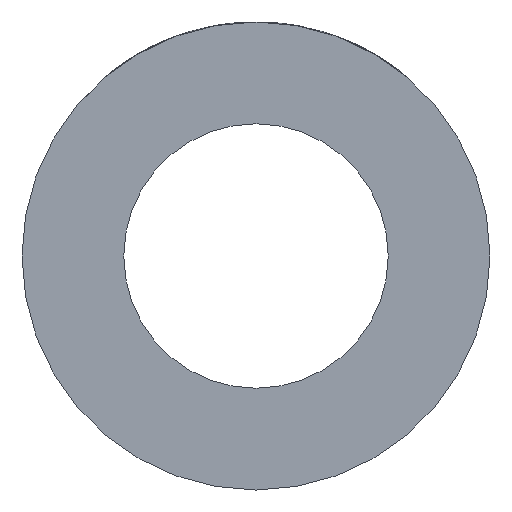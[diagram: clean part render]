
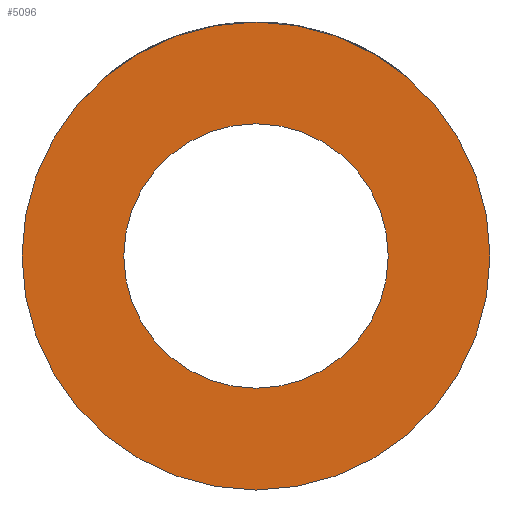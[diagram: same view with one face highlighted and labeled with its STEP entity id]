
A CAD part, left-side view. The second image highlights one B-rep face of the part: STEP entity #5096.
In plain terms, the highlighted planar face has unit normal (-1, 0, 0).
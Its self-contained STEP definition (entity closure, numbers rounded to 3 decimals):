
#117=PLANE('',#5491);
#1569=ORIENTED_EDGE('',*,*,#3111,.T.);
#1570=ORIENTED_EDGE('',*,*,#3110,.F.);
#3110=EDGE_CURVE('',#3881,#3881,#4228,.T.);
#3111=EDGE_CURVE('',#3882,#3882,#4229,.T.);
#3881=VERTEX_POINT('',#8054);
#3882=VERTEX_POINT('',#8057);
#4228=CIRCLE('',#5490,11.5);
#4229=CIRCLE('',#5492,6.5);
#4349=EDGE_LOOP('',(#1569));
#4350=EDGE_LOOP('',(#1570));
#4717=FACE_BOUND('',#4349,.T.);
#4718=FACE_BOUND('',#4350,.T.);
#5096=ADVANCED_FACE('',(#4717,#4718),#117,.F.);
#5490=AXIS2_PLACEMENT_3D('',#8053,#6013,#6014);
#5491=AXIS2_PLACEMENT_3D('',#8055,#6015,#6016);
#5492=AXIS2_PLACEMENT_3D('',#8056,#6017,#6018);
#6013=DIRECTION('',(1.,0.,0.));
#6014=DIRECTION('',(0.,0.,-1.));
#6015=DIRECTION('',(1.,0.,0.));
#6016=DIRECTION('',(0.,0.,-1.));
#6017=DIRECTION('',(1.,0.,0.));
#6018=DIRECTION('',(0.,0.,-1.));
#8053=CARTESIAN_POINT('',(-30.5,0.,0.));
#8054=CARTESIAN_POINT('',(-30.5,0.,-11.5));
#8055=CARTESIAN_POINT('',(-30.5,0.,0.));
#8056=CARTESIAN_POINT('',(-30.5,0.,0.));
#8057=CARTESIAN_POINT('',(-30.5,0.,-6.5));
